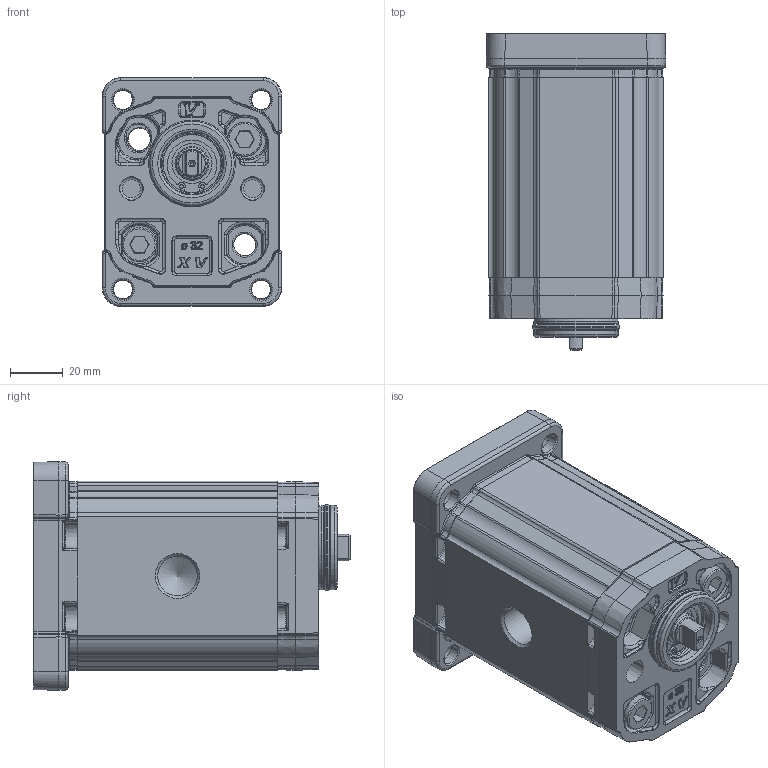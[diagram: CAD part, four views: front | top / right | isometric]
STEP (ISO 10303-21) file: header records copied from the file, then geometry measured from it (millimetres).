
FILE_DESCRIPTION(/* description */ ('Unknown'),/* implementation_level */ '2;1');
FILE_NAME(/* name */ 'X1T3651DBBA',/* time_stamp */ '2026-05-27T08:33:12+02:00',/* author */ ('Unknown'),/* organization */ ('Unknown'),/* preprocessor_version */ 'ST-DEVELOPER v16.7',/* originating_system */ 'Solid Edge',/* authorisation */ 'Unknown');
FILE_SCHEMA (('AUTOMOTIVE_DESIGN {1 0 10303 214 3 1 1}'));
Products named in the file (5): X1T3651DBBA; X1T51; 1D; X1BBH76; XT140-A
Assembly tree (4 placements, depth 2):
  X1T3651DBBA
    X1T51
    1D
    X1BBH76
    XT140-A
Bounding box: 68 x 120 x 86.7 mm (x, y, z)
Volume: 433629.6 mm3; surface area: 81629.3 mm2
Topology: 6 solids, 7 shells, 2150 faces, 5231 edges, 3104 vertices
Faces by surface type: cylinder 704, bspline 407, plane 401, torus 354, cone 232, sphere 52
Full cylindrical faces by diameter (mm): 1.447 x2, 1.5 x1, 2.5 x1, 3.65 x2, 6.8 x2, 7.15 x4, 7.99 x2, 8 x2, 8.5 x5, 9 x2, 9.337 x4, 9.9 x1, 10 x1, 10.5 x2, 11.965 x2, 12 x2, 12.923 x1, 13 x1, 14.95 x2, 15.115 x1, 15.181 x1, 19 x2, 20 x1, 21.4 x1, 22 x2, 22.2 x1, 23 x1, 24 x1, 25.4 x1, 29.4 x2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
Entity records: 104178 total; most frequent: CARTESIAN_POINT 42052, ORIENTED_EDGE 9858, DIRECTION 9685, EDGE_CURVE 4929, AXIS2_PLACEMENT_3D 4143, VERTEX_POINT 3033, FACE_BOUND 2430, EDGE_LOOP 2425
